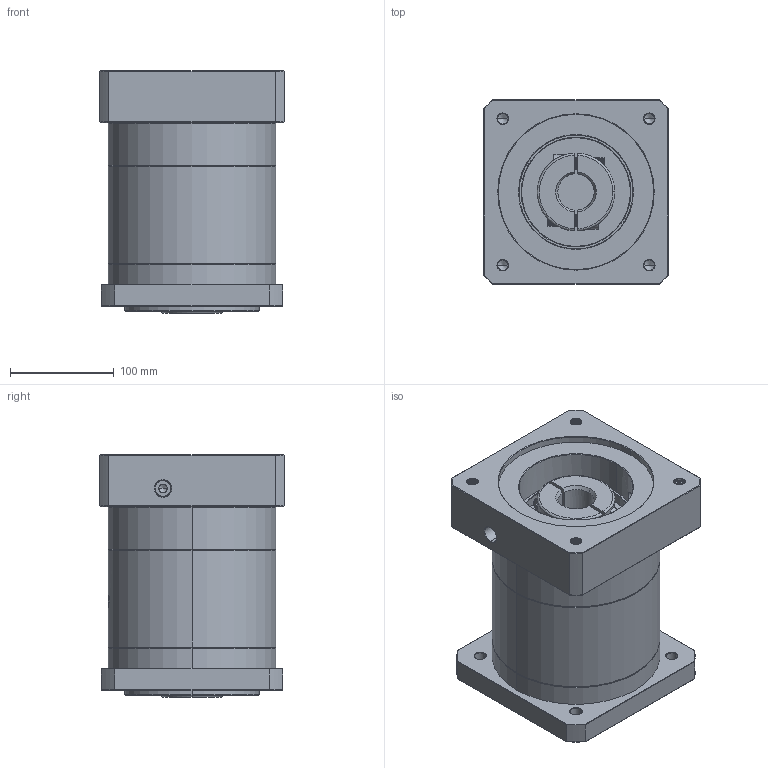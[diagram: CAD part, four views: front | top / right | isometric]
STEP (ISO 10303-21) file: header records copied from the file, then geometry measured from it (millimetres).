
FILE_DESCRIPTION (( 'STEP AP214' ), '1' );
FILE_NAME ('ZF160A-K35-L2-P2-35-150-200-M12.step', '2023-09-03T07:03:19', ( '' ), ( '' ), 'SwSTEP 2.0', 'SolidWorks 2016', '' );
FILE_SCHEMA (( 'AUTOMOTIVE_DESIGN' ));
Length unit declared in the file: millimetre
Products named in the file (1): ZF160A-K35-L2-P2-35-150-200-M12
Bounding box: 178 x 178 x 234.2 mm (x, y, z)
Volume: 4917880.8 mm3; surface area: 356541 mm2
Topology: 6 solids, 6 shells, 2128 faces, 5757 edges, 3733 vertices
Faces by surface type: plane 1010, bspline 404, cylinder 374, cone 320, torus 20
Entity records: 119053 total; most frequent: CARTESIAN_POINT 46960, ORIENTED_EDGE 11458, DIRECTION 8403, EDGE_CURVE 5729, VERTEX_POINT 3733, LINE 2995, VECTOR 2995, AXIS2_PLACEMENT_3D 2704
